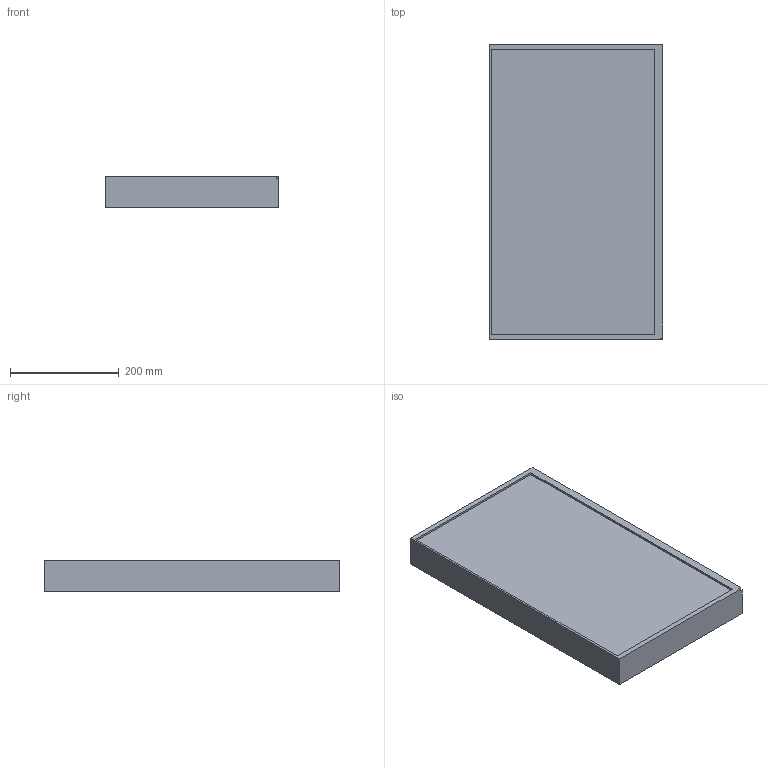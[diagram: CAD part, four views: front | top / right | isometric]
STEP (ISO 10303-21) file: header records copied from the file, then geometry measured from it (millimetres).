
FILE_DESCRIPTION(/* description */ (''),/* implementation_level */ '2;1');
FILE_NAME(/* name */ 'monitor.step',/* time_stamp */ '2026-06-27T03:52:06+02:00',/* author */ (''),/* organization */ (''),/* preprocessor_version */ 'ST-DEVELOPER v20.1',/* originating_system */ 'Autodesk Translation Framework v15.8.0.0',/* authorisation */ '');
FILE_SCHEMA (('AUTOMOTIVE_DESIGN { 1 0 10303 214 3 1 1 }'));
Length unit declared in the file: millimetre
Products named in the file (2): 2026-06-27-03-52-06-543; 2026-06-27-03-52-06-544
Assembly tree (1 placements, depth 2):
  2026-06-27-03-52-06-543
    2026-06-27-03-52-06-544
Bounding box: 320 x 545 x 58 mm (x, y, z)
Volume: 8392318.2 mm3; surface area: 462747.8 mm2
Topology: 1 solids, 1 shells, 28 faces, 63 edges, 42 vertices
Faces by surface type: plane 24, cylinder 4
Full cylindrical faces by diameter (mm): 3.412 x1, 3.979 x2, 4.369 x1
Entity records: 835 total; most frequent: CARTESIAN_POINT 136, DIRECTION 133, ORIENTED_EDGE 126, EDGE_CURVE 63, LINE 55, VECTOR 55, VERTEX_POINT 42, AXIS2_PLACEMENT_3D 39
